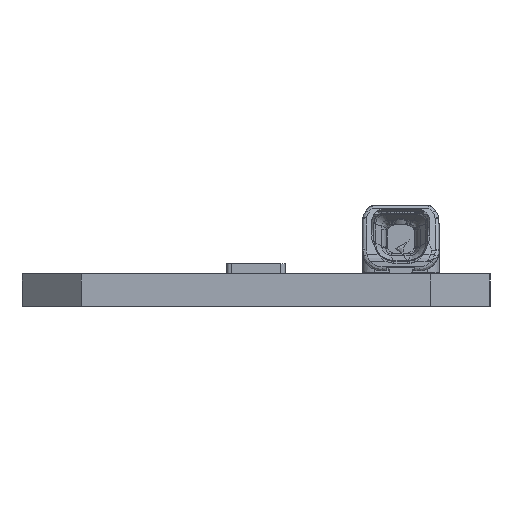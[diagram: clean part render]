
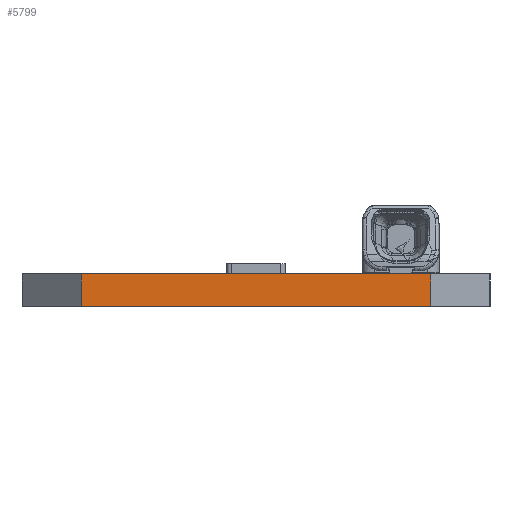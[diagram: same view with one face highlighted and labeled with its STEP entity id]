
A CAD part, left-side view. The second image highlights one B-rep face of the part: STEP entity #5799.
In plain terms, the highlighted planar face has unit normal (-1, 0, 0).
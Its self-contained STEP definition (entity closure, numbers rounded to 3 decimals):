
#26=DIRECTION('',(0.,1.,0.));
#27=VECTOR('',#26,17.6);
#28=CARTESIAN_POINT('',(-139.5,-8.8,0.));
#29=LINE('',#28,#27);
#179=DIRECTION('',(0.,0.,1.));
#180=VECTOR('',#179,1.65);
#181=CARTESIAN_POINT('',(-139.5,-8.8,0.));
#182=LINE('',#181,#180);
#183=DIRECTION('',(0.,1.,0.));
#184=VECTOR('',#183,17.6);
#185=CARTESIAN_POINT('',(-139.5,-8.8,1.65));
#186=LINE('',#185,#184);
#1606=DIRECTION('',(0.,0.,1.));
#1607=VECTOR('',#1606,1.65);
#1608=CARTESIAN_POINT('',(-139.5,8.8,0.));
#1609=LINE('',#1608,#1607);
#4402=CARTESIAN_POINT('',(-139.5,-8.8,1.65));
#4404=VERTEX_POINT('',#4402);
#4448=CARTESIAN_POINT('',(-139.5,8.8,0.));
#4449=CARTESIAN_POINT('',(-139.5,8.8,1.65));
#4450=VERTEX_POINT('',#4448);
#4451=VERTEX_POINT('',#4449);
#4482=CARTESIAN_POINT('',(-139.5,-8.8,0.));
#4483=VERTEX_POINT('',#4482);
#5785=CARTESIAN_POINT('',(-139.5,8.8,1.65));
#5786=DIRECTION('',(-1.,0.,0.));
#5787=DIRECTION('',(0.,0.,1.));
#5788=AXIS2_PLACEMENT_3D('',#5785,#5786,#5787);
#5789=PLANE('',#5788);
#5791=ORIENTED_EDGE('',*,*,#5790,.F.);
#5792=ORIENTED_EDGE('',*,*,#5691,.T.);
#5794=ORIENTED_EDGE('',*,*,#5793,.T.);
#5796=ORIENTED_EDGE('',*,*,#5795,.F.);
#5797=EDGE_LOOP('',(#5791,#5792,#5794,#5796));
#5798=FACE_OUTER_BOUND('',#5797,.F.);
#5799=ADVANCED_FACE('',(#5798),#5789,.T.);
#5691=EDGE_CURVE('',#4483,#4450,#29,.T.);
#5790=EDGE_CURVE('',#4483,#4404,#182,.T.);
#5793=EDGE_CURVE('',#4450,#4451,#1609,.T.);
#5795=EDGE_CURVE('',#4404,#4451,#186,.T.);
